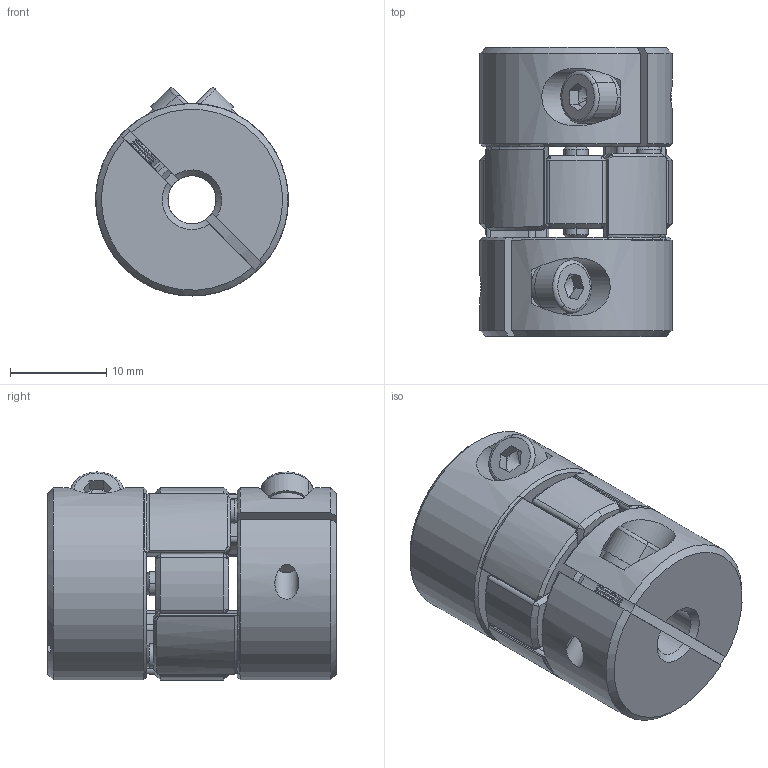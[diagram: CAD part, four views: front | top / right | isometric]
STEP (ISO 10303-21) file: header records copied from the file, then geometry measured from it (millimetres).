
FILE_DESCRIPTION (( 'STEP AP203' ), '1' );
FILE_NAME ('LF-B-D20L30-5-5.STEP', '2021-10-27T02:42:36', ( '' ), ( '' ), 'SwSTEP 2.0', 'SolidWorks 2018', '' );
FILE_SCHEMA (( 'CONFIG_CONTROL_DESIGN' ));
Length unit declared in the file: millimetre
Products named in the file (1): LF-B-D20L30-5-5
Bounding box: 20 x 30 x 21.62 mm (x, y, z)
Volume: 7898.2 mm3; surface area: 4896.7 mm2
Topology: 1 solids, 1 shells, 518 faces, 1253 edges, 691 vertices
Faces by surface type: cone 252, cylinder 192, plane 62, torus 12
Entity records: 15026 total; most frequent: CARTESIAN_POINT 2906, DIRECTION 2742, ORIENTED_EDGE 2426, EDGE_CURVE 1213, AXIS2_PLACEMENT_3D 1107, VERTEX_POINT 691, CIRCLE 588, EDGE_LOOP 546
